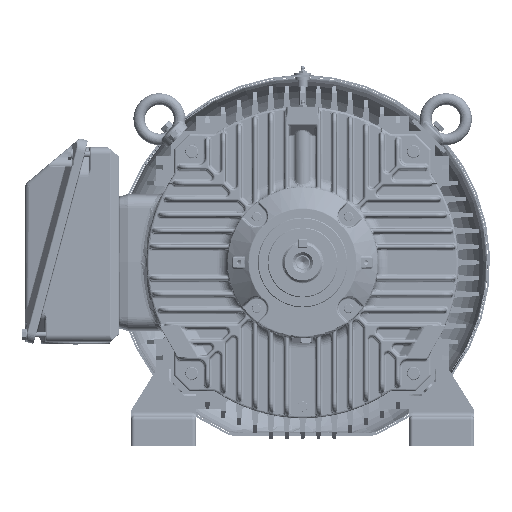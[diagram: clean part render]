
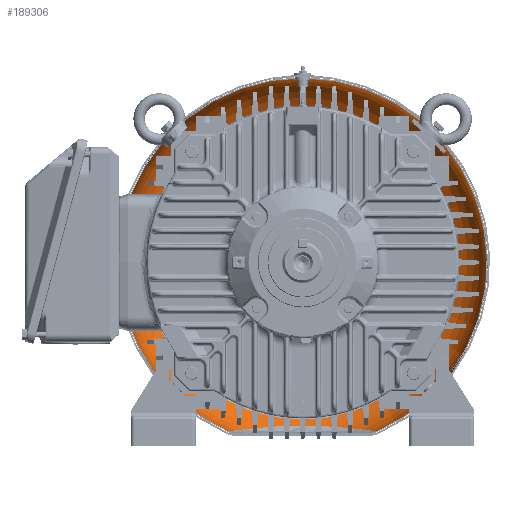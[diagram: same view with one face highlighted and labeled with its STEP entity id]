
A CAD part, front view. The second image highlights one B-rep face of the part: STEP entity #189306.
In plain terms, the highlighted toroidal (fillet/blend) face has major radius 180.5 mm and minor radius 75 mm.
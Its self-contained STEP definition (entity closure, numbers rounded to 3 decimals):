
#1784=TOROIDAL_SURFACE('',#201167,180.5,75.);
#2879=B_SPLINE_CURVE_WITH_KNOTS('',3,(#286371,#286372,#286373,#286374,#286375,
#286376,#286377,#286378,#286379,#286380,#286381,#286382,#286383,#286384,
#286385,#286386,#286387,#286388,#286389,#286390,#286391,#286392,#286393,
#286394,#286395,#286396,#286397,#286398,#286399,#286400,#286401,#286402,
#286403,#286404,#286405,#286406,#286407,#286408,#286409,#286410,#286411,
#286412,#286413,#286414,#286415,#286416,#286417,#286418,#286419,#286420,
#286421,#286422,#286423,#286424,#286425,#286426,#286427,#286428,#286429,
#286430,#286431,#286432,#286433,#286434,#286435,#286436,#286437,#286438,
#286439,#286440,#286441,#286442,#286443,#286444,#286445,#286446,#286447,
#286448,#286449,#286450,#286451,#286452,#286453,#286454,#286455),
 .UNSPECIFIED.,.F.,.F.,(4,1,1,1,1,1,1,1,1,1,1,1,1,1,1,1,1,1,1,1,1,1,1,1,
1,1,1,1,1,1,1,1,1,1,1,1,1,1,1,1,1,1,1,1,1,1,1,1,1,1,1,1,1,1,1,1,1,1,1,1,
1,1,1,1,1,1,1,1,1,1,1,1,1,1,1,1,1,1,1,1,1,1,4),(0.,0.031,0.063,0.078,
0.094,0.102,0.109,0.117,0.121,0.123,0.125,0.127,
0.129,0.133,0.141,0.148,0.156,0.172,0.188,0.203,
0.219,0.227,0.234,0.242,0.246,0.25,0.254,0.258,
0.266,0.281,0.297,0.313,0.344,0.359,0.367,0.375,0.383,
0.391,0.406,0.438,0.469,0.5,0.531,0.563,0.594,0.609,0.617,
0.625,0.633,0.641,0.656,0.688,0.703,0.719,0.734,0.742,
0.746,0.75,0.754,0.758,0.766,0.773,0.781,0.797,
0.813,0.828,0.844,0.852,0.859,0.867,0.871,0.873,
0.875,0.877,0.879,0.883,0.891,0.898,0.906,0.922,
0.938,0.969,1.),.UNSPECIFIED.);
#65417=ORIENTED_EDGE('',*,*,#114481,.F.);
#65418=ORIENTED_EDGE('',*,*,#114482,.T.);
#65419=ORIENTED_EDGE('',*,*,#114478,.T.);
#114478=EDGE_CURVE('',#160171,#160168,#2879,.T.);
#114481=EDGE_CURVE('',#160172,#160172,#132711,.T.);
#114482=EDGE_CURVE('',#160168,#160171,#132712,.T.);
#132711=CIRCLE('',#201168,218.);
#132712=CIRCLE('',#201169,255.5);
#143556=EDGE_LOOP('',(#65417));
#143557=EDGE_LOOP('',(#65418,#65419));
#160168=VERTEX_POINT('',#285964);
#160171=VERTEX_POINT('',#286221);
#160172=VERTEX_POINT('',#286462);
#175589=FACE_BOUND('',#143556,.T.);
#175590=FACE_BOUND('',#143557,.T.);
#189306=ADVANCED_FACE('',(#175589,#175590),#1784,.F.);
#201167=AXIS2_PLACEMENT_3D('',#286460,#231669,#231670);
#201168=AXIS2_PLACEMENT_3D('',#286461,#231671,#231672);
#201169=AXIS2_PLACEMENT_3D('',#286463,#231673,#231674);
#231669=DIRECTION('',(0.,-1.,0.));
#231670=DIRECTION('',(1.,0.,0.));
#231671=DIRECTION('',(0.,-1.,0.));
#231672=DIRECTION('',(1.,0.,0.));
#231673=DIRECTION('',(0.,-1.,0.));
#231674=DIRECTION('',(0.,0.,-1.));
#285964=CARTESIAN_POINT('',(102.85,649.338,-233.885));
#286221=CARTESIAN_POINT('',(-102.85,649.338,-233.885));
#286371=CARTESIAN_POINT('',(-102.85,649.338,-233.885));
#286372=CARTESIAN_POINT('',(-102.85,652.011,-233.885));
#286373=CARTESIAN_POINT('',(-102.314,657.292,-233.809));
#286374=CARTESIAN_POINT('',(-100.336,663.655,-233.56));
#286375=CARTESIAN_POINT('',(-97.994,668.569,-233.281));
#286376=CARTESIAN_POINT('',(-96.219,671.559,-233.072));
#286377=CARTESIAN_POINT('',(-94.618,673.9,-232.885));
#286378=CARTESIAN_POINT('',(-93.327,675.63,-232.734));
#286379=CARTESIAN_POINT('',(-92.179,677.046,-232.6));
#286380=CARTESIAN_POINT('',(-91.332,678.031,-232.5));
#286381=CARTESIAN_POINT('',(-90.846,678.581,-232.443));
#286382=CARTESIAN_POINT('',(-90.451,679.018,-232.396));
#286383=CARTESIAN_POINT('',(-90.147,679.35,-232.36));
#286384=CARTESIAN_POINT('',(-89.704,679.825,-232.307));
#286385=CARTESIAN_POINT('',(-88.933,680.631,-232.216));
#286386=CARTESIAN_POINT('',(-87.792,681.769,-232.082));
#286387=CARTESIAN_POINT('',(-86.375,683.096,-231.917));
#286388=CARTESIAN_POINT('',(-84.419,684.819,-231.691));
#286389=CARTESIAN_POINT('',(-81.854,686.883,-231.4));
#286390=CARTESIAN_POINT('',(-78.587,689.222,-231.041));
#286391=CARTESIAN_POINT('',(-75.14,691.423,-230.675));
#286392=CARTESIAN_POINT('',(-72.121,693.146,-230.364));
#286393=CARTESIAN_POINT('',(-69.62,694.46,-230.113));
#286394=CARTESIAN_POINT('',(-67.705,695.412,-229.924));
#286395=CARTESIAN_POINT('',(-66.068,696.183,-229.764));
#286396=CARTESIAN_POINT('',(-64.754,696.777,-229.637));
#286397=CARTESIAN_POINT('',(-63.713,697.234,-229.538));
#286398=CARTESIAN_POINT('',(-62.835,697.609,-229.454));
#286399=CARTESIAN_POINT('',(-61.6,698.125,-229.338));
#286400=CARTESIAN_POINT('',(-59.451,698.987,-229.138));
#286401=CARTESIAN_POINT('',(-56.324,700.148,-228.856));
#286402=CARTESIAN_POINT('',(-52.511,701.419,-228.531));
#286403=CARTESIAN_POINT('',(-47.337,702.964,-228.116));
#286404=CARTESIAN_POINT('',(-42.035,704.289,-227.735));
#286405=CARTESIAN_POINT('',(-37.267,705.277,-227.434));
#286406=CARTESIAN_POINT('',(-34.523,705.792,-227.272));
#286407=CARTESIAN_POINT('',(-32.405,706.161,-227.154));
#286408=CARTESIAN_POINT('',(-30.434,706.481,-227.048));
#286409=CARTESIAN_POINT('',(-27.754,706.886,-226.913));
#286410=CARTESIAN_POINT('',(-23.083,707.51,-226.699));
#286411=CARTESIAN_POINT('',(-16.376,708.184,-226.458));
#286412=CARTESIAN_POINT('',(-8.279,708.661,-226.287));
#286413=CARTESIAN_POINT('',(-0.066,708.82,-226.232));
#286414=CARTESIAN_POINT('',(8.187,708.665,-226.286));
#286415=CARTESIAN_POINT('',(16.301,708.189,-226.457));
#286416=CARTESIAN_POINT('',(23.027,707.516,-226.697));
#286417=CARTESIAN_POINT('',(27.712,706.892,-226.911));
#286418=CARTESIAN_POINT('',(30.399,706.487,-227.047));
#286419=CARTESIAN_POINT('',(32.379,706.166,-227.152));
#286420=CARTESIAN_POINT('',(34.489,705.798,-227.27));
#286421=CARTESIAN_POINT('',(37.228,705.285,-227.431));
#286422=CARTESIAN_POINT('',(41.986,704.301,-227.731));
#286423=CARTESIAN_POINT('',(47.28,702.979,-228.111));
#286424=CARTESIAN_POINT('',(52.449,701.438,-228.526));
#286425=CARTESIAN_POINT('',(56.259,700.17,-228.851));
#286426=CARTESIAN_POINT('',(59.385,699.012,-229.132));
#286427=CARTESIAN_POINT('',(61.534,698.151,-229.332));
#286428=CARTESIAN_POINT('',(62.769,697.637,-229.448));
#286429=CARTESIAN_POINT('',(63.647,697.262,-229.532));
#286430=CARTESIAN_POINT('',(64.687,696.807,-229.631));
#286431=CARTESIAN_POINT('',(66.,696.214,-229.757));
#286432=CARTESIAN_POINT('',(67.636,695.446,-229.917));
#286433=CARTESIAN_POINT('',(69.551,694.496,-230.106));
#286434=CARTESIAN_POINT('',(72.052,693.184,-230.357));
#286435=CARTESIAN_POINT('',(75.072,691.462,-230.669));
#286436=CARTESIAN_POINT('',(78.525,689.26,-231.037));
#286437=CARTESIAN_POINT('',(81.799,686.92,-231.397));
#286438=CARTESIAN_POINT('',(84.374,684.851,-231.689));
#286439=CARTESIAN_POINT('',(86.338,683.124,-231.915));
#286440=CARTESIAN_POINT('',(87.762,681.794,-232.081));
#286441=CARTESIAN_POINT('',(88.909,680.652,-232.215));
#286442=CARTESIAN_POINT('',(89.685,679.843,-232.306));
#286443=CARTESIAN_POINT('',(90.13,679.367,-232.358));
#286444=CARTESIAN_POINT('',(90.437,679.033,-232.394));
#286445=CARTESIAN_POINT('',(90.832,678.597,-232.44));
#286446=CARTESIAN_POINT('',(91.319,678.049,-232.497));
#286447=CARTESIAN_POINT('',(92.166,677.066,-232.596));
#286448=CARTESIAN_POINT('',(93.315,675.652,-232.73));
#286449=CARTESIAN_POINT('',(94.607,673.925,-232.881));
#286450=CARTESIAN_POINT('',(96.21,671.587,-233.067));
#286451=CARTESIAN_POINT('',(97.986,668.597,-233.276));
#286452=CARTESIAN_POINT('',(100.332,663.683,-233.556));
#286453=CARTESIAN_POINT('',(102.313,657.312,-233.807));
#286454=CARTESIAN_POINT('',(102.85,652.019,-233.885));
#286455=CARTESIAN_POINT('',(102.85,649.338,-233.885));
#286460=CARTESIAN_POINT('',(0.,649.338,0.));
#286461=CARTESIAN_POINT('',(0.,714.29,0.));
#286462=CARTESIAN_POINT('',(218.,714.29,0.));
#286463=CARTESIAN_POINT('',(0.,649.338,0.));
